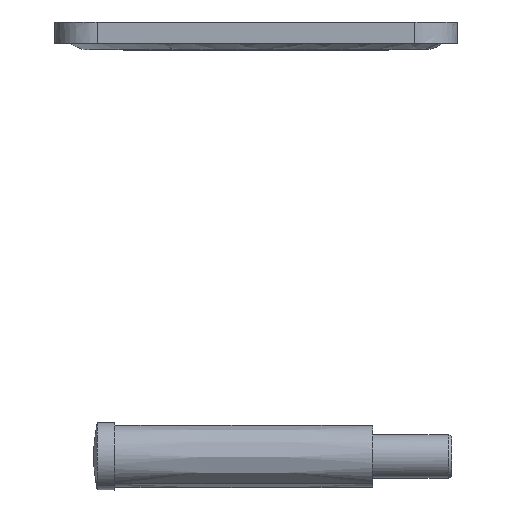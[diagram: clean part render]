
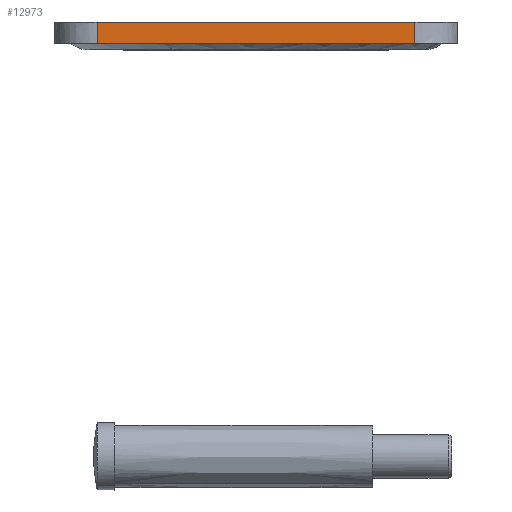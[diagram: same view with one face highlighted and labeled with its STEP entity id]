
A CAD part, front view. The second image highlights one B-rep face of the part: STEP entity #12973.
In plain terms, the highlighted planar face has unit normal (0, -1, 0).
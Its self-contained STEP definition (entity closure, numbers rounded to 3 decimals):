
#2163 = CARTESIAN_POINT ( 'NONE',  ( -45., -79., -4. ) ) ;
#2171 = CARTESIAN_POINT ( 'NONE',  ( -45., -79., 0. ) ) ;
#2174 = CARTESIAN_POINT ( 'NONE',  ( 45., -79., -6. ) ) ;
#2177 = DIRECTION ( 'NONE',  ( 0., 0., -1. ) ) ;
#2384 = DIRECTION ( 'NONE',  ( -1., 0., 0. ) ) ;
#2385 = CARTESIAN_POINT ( 'NONE',  ( -45., -79., 0. ) ) ;
#2396 = DIRECTION ( 'NONE',  ( -1., 0., 0. ) ) ;
#2397 = CARTESIAN_POINT ( 'NONE',  ( -57., -79., -6. ) ) ;
#2411 = CARTESIAN_POINT ( 'NONE',  ( -45., -79., -2. ) ) ;
#2722 = VECTOR ( 'NONE', #2177, 1000. ) ;
#2725 = LINE ( 'NONE', #2174, #2722 ) ;
#2729 = LINE ( 'NONE', #2397, #2730 ) ;
#2730 = VECTOR ( 'NONE', #2396, 1000. ) ;
#2740 = LINE ( 'NONE', #2385, #2741 ) ;
#2741 = VECTOR ( 'NONE', #2384, 1000. ) ;
#2938 = FACE_OUTER_BOUND ( 'NONE', #3593, .T. ) ;
#3065 = B_SPLINE_CURVE_WITH_KNOTS ( 'NONE', 3,
 ( #3720, #2163, #2411, #2171 ),
 .UNSPECIFIED., .F., .F.,
 ( 4, 4 ),
 ( 0., 1. ),
 .UNSPECIFIED. ) ;
#3553 = AXIS2_PLACEMENT_3D ( 'NONE', #14488, #14499, #14500 ) ;
#3593 = EDGE_LOOP ( 'NONE', ( #5214, #5213, #5211, #5209 ) ) ;
#3720 = CARTESIAN_POINT ( 'NONE',  ( -45., -79., -6. ) ) ;
#5209 = ORIENTED_EDGE ( 'NONE', *, *, #8411, .T. ) ;
#5211 = ORIENTED_EDGE ( 'NONE', *, *, #8377, .F. ) ;
#5213 = ORIENTED_EDGE ( 'NONE', *, *, #8408, .F. ) ;
#5214 = ORIENTED_EDGE ( 'NONE', *, *, #8379, .F. ) ;
#6461 = VERTEX_POINT ( 'NONE', #17106 ) ;
#6466 = VERTEX_POINT ( 'NONE', #17104 ) ;
#6468 = VERTEX_POINT ( 'NONE', #17103 ) ;
#6479 = VERTEX_POINT ( 'NONE', #17101 ) ;
#8377 = EDGE_CURVE ( 'NONE', #6468, #6479, #2725, .T. ) ;
#8379 = EDGE_CURVE ( 'NONE', #6466, #6461, #3065, .T. ) ;
#8408 = EDGE_CURVE ( 'NONE', #6479, #6466, #2729, .T. ) ;
#8411 = EDGE_CURVE ( 'NONE', #6468, #6461, #2740, .T. ) ;
#12973 = ADVANCED_FACE ( 'NONE', ( #2938 ), #14494, .F. ) ;
#14488 = CARTESIAN_POINT ( 'NONE',  ( -45., -79., -6. ) ) ;
#14494 = PLANE ( 'NONE',  #3553 ) ;
#14499 = DIRECTION ( 'NONE',  ( 0., 1., 0. ) ) ;
#14500 = DIRECTION ( 'NONE',  ( 0., 0., 1. ) ) ;
#17101 = CARTESIAN_POINT ( 'NONE',  ( 45., -79., -6. ) ) ;
#17103 = CARTESIAN_POINT ( 'NONE',  ( 45., -79., 0. ) ) ;
#17104 = CARTESIAN_POINT ( 'NONE',  ( -45., -79., -6. ) ) ;
#17106 = CARTESIAN_POINT ( 'NONE',  ( -45., -79., 0. ) ) ;
